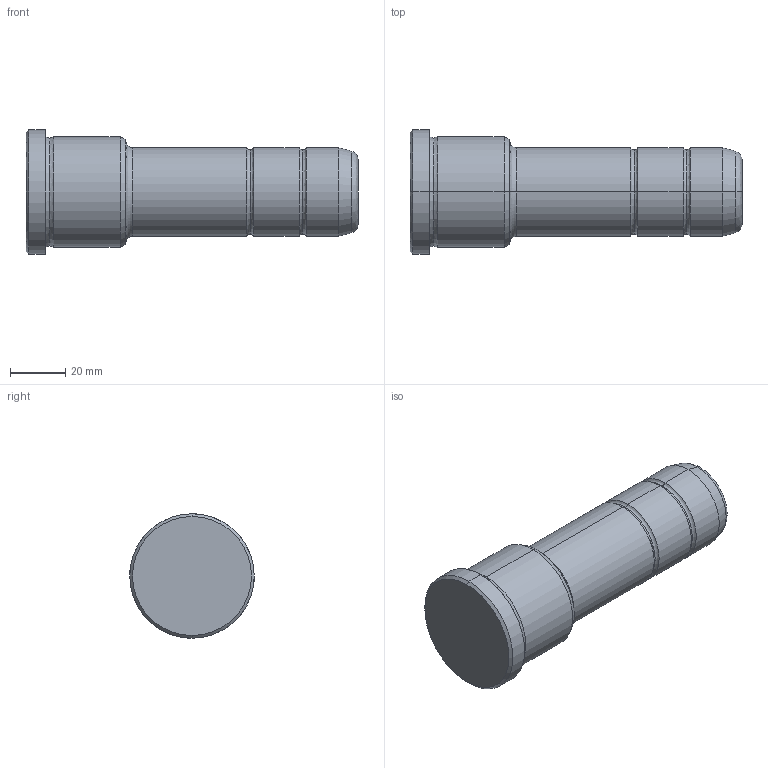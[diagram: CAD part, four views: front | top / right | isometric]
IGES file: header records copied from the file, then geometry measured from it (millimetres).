
Start section: START RECORD GO HERE.
Global section: file name: 351-32X36X120.igs; native system: DASSAULT SYSTEMES CATIA V5 R20 - www.3ds.com; preprocessor: CATIA Version 5 Release 20 ; author: Utente; organization: NB04-ASUS; date: 20210907.153458; units: millimetre
Bounding box: 120 x 45 x 45 mm (x, y, z)
Surface area: 15830 mm2 (no closed solid volume)
Topology: 0 solids, 0 shells, 36 faces, 204 edges, 204 vertices
Faces by surface type: revolution 32, plane 4
